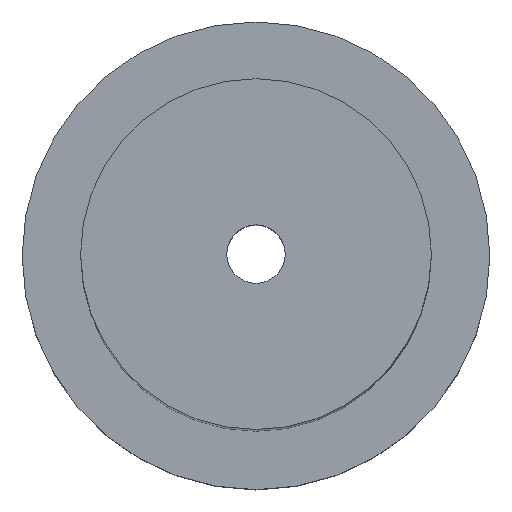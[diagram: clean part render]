
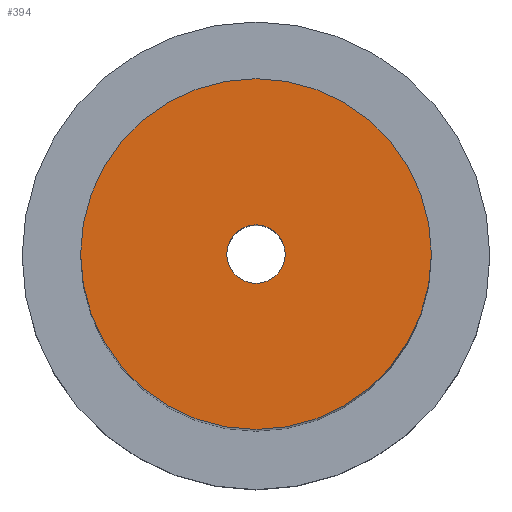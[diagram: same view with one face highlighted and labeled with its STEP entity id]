
A CAD part, top view. The second image highlights one B-rep face of the part: STEP entity #394.
In plain terms, the highlighted planar face has unit normal (0, 0, 1).
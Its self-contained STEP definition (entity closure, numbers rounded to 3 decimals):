
#223 = CYLINDRICAL_SURFACE('',#224,3.);
#224 = AXIS2_PLACEMENT_3D('',#225,#226,#227);
#225 = CARTESIAN_POINT('',(0.,0.,0.));
#226 = DIRECTION('',(-0.,-0.,-1.));
#227 = DIRECTION('',(1.,0.,0.));
#277 = CYLINDRICAL_SURFACE('',#278,0.5);
#278 = AXIS2_PLACEMENT_3D('',#279,#280,#281);
#279 = CARTESIAN_POINT('',(0.,0.,14.));
#280 = DIRECTION('',(0.,0.,1.));
#281 = DIRECTION('',(1.,0.,-0.));
#295 = VERTEX_POINT('',#296);
#296 = CARTESIAN_POINT('',(3.,0.,20.));
#317 = EDGE_CURVE('',#295,#295,#318,.T.);
#318 = SURFACE_CURVE('',#319,(#324,#331),.PCURVE_S1.);
#319 = CIRCLE('',#320,3.);
#320 = AXIS2_PLACEMENT_3D('',#321,#322,#323);
#321 = CARTESIAN_POINT('',(0.,0.,20.));
#322 = DIRECTION('',(0.,0.,1.));
#323 = DIRECTION('',(1.,0.,0.));
#324 = PCURVE('',#223,#325);
#325 = DEFINITIONAL_REPRESENTATION('',(#326),#330);
#326 = LINE('',#327,#328);
#327 = CARTESIAN_POINT('',(-0.,-20.));
#328 = VECTOR('',#329,1.);
#329 = DIRECTION('',(-1.,0.));
#330 = ( GEOMETRIC_REPRESENTATION_CONTEXT(2) 
PARAMETRIC_REPRESENTATION_CONTEXT() REPRESENTATION_CONTEXT('2D SPACE',''
  ) );
#331 = PCURVE('',#332,#337);
#332 = PLANE('',#333);
#333 = AXIS2_PLACEMENT_3D('',#334,#335,#336);
#334 = CARTESIAN_POINT('',(0.,0.,20.));
#335 = DIRECTION('',(0.,0.,1.));
#336 = DIRECTION('',(1.,0.,-0.));
#337 = DEFINITIONAL_REPRESENTATION('',(#338),#342);
#338 = CIRCLE('',#339,3.);
#339 = AXIS2_PLACEMENT_2D('',#340,#341);
#340 = CARTESIAN_POINT('',(0.,0.));
#341 = DIRECTION('',(1.,0.));
#342 = ( GEOMETRIC_REPRESENTATION_CONTEXT(2) 
PARAMETRIC_REPRESENTATION_CONTEXT() REPRESENTATION_CONTEXT('2D SPACE',''
  ) );
#350 = VERTEX_POINT('',#351);
#351 = CARTESIAN_POINT('',(0.5,0.,20.));
#372 = EDGE_CURVE('',#350,#350,#373,.T.);
#373 = SURFACE_CURVE('',#374,(#379,#386),.PCURVE_S1.);
#374 = CIRCLE('',#375,0.5);
#375 = AXIS2_PLACEMENT_3D('',#376,#377,#378);
#376 = CARTESIAN_POINT('',(0.,0.,20.));
#377 = DIRECTION('',(0.,0.,1.));
#378 = DIRECTION('',(1.,0.,-0.));
#379 = PCURVE('',#277,#380);
#380 = DEFINITIONAL_REPRESENTATION('',(#381),#385);
#381 = LINE('',#382,#383);
#382 = CARTESIAN_POINT('',(0.,6.));
#383 = VECTOR('',#384,1.);
#384 = DIRECTION('',(1.,0.));
#385 = ( GEOMETRIC_REPRESENTATION_CONTEXT(2) 
PARAMETRIC_REPRESENTATION_CONTEXT() REPRESENTATION_CONTEXT('2D SPACE',''
  ) );
#386 = PCURVE('',#332,#387);
#387 = DEFINITIONAL_REPRESENTATION('',(#388),#392);
#388 = CIRCLE('',#389,0.5);
#389 = AXIS2_PLACEMENT_2D('',#390,#391);
#390 = CARTESIAN_POINT('',(0.,0.));
#391 = DIRECTION('',(1.,0.));
#392 = ( GEOMETRIC_REPRESENTATION_CONTEXT(2) 
PARAMETRIC_REPRESENTATION_CONTEXT() REPRESENTATION_CONTEXT('2D SPACE',''
  ) );
#394 = ADVANCED_FACE('',(#395,#398),#332,.T.);
#395 = FACE_BOUND('',#396,.T.);
#396 = EDGE_LOOP('',(#397));
#397 = ORIENTED_EDGE('',*,*,#317,.T.);
#398 = FACE_BOUND('',#399,.T.);
#399 = EDGE_LOOP('',(#400));
#400 = ORIENTED_EDGE('',*,*,#372,.F.);
